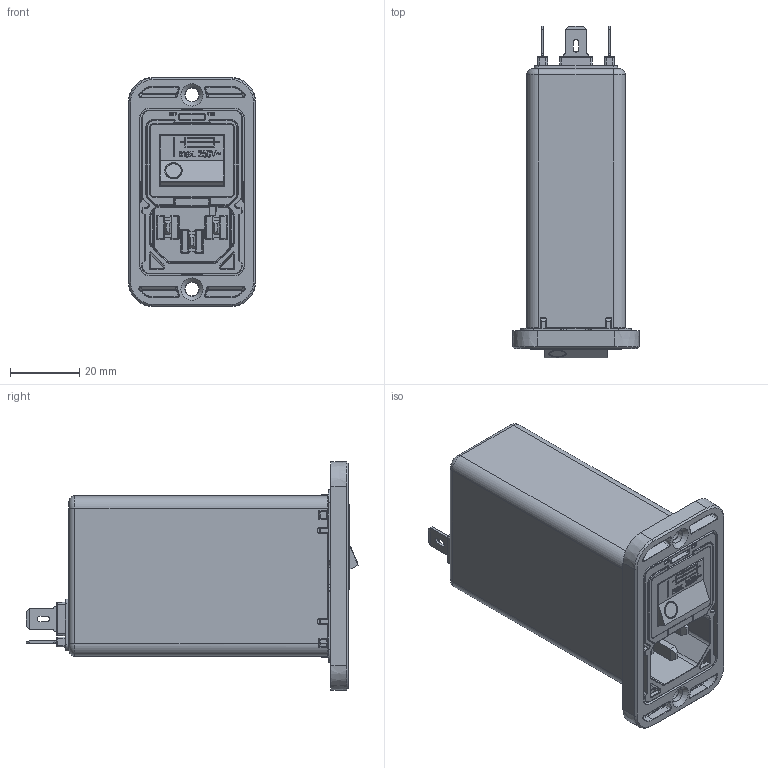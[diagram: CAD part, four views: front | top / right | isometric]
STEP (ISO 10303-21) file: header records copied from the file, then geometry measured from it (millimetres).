
FILE_DESCRIPTION((''),'2;1');
FILE_NAME('H:\02_Projects\A_Others\Z_Support\Luis\Cherry_STP\Step_Files\2 Stage\2_stage_faston_vertical_front.stp','2012-07-26T14:59:36',('Samuel.Meier'),(''),'Autodesk Inventor 2010','Autodesk Inventor 2010','');
FILE_SCHEMA(('AUTOMOTIVE_DESIGN { 1 2 10303 214 0 1 1 1 }'));
Length unit declared in the file: millimetre
Products named in the file (1): 2_stage_faston_vertical_front
Bounding box: 36.67 x 95.74 x 66.07 mm (x, y, z)
Surface area: 70881.9 mm2 (no closed solid volume)
Topology: 0 solids, 12 shells, 3664 faces, 9810 edges, 6078 vertices
Faces by surface type: plane 1449, cylinder 1389, bspline 540, torus 127, sphere 91, cone 68
Full cylindrical faces by diameter (mm): 0.8 x4, 1 x2, 1.1 x10, 1.2 x1, 2.7 x1, 3.3 x1, 3.6 x2, 4 x2, 4.5 x2, 6.5 x1, 7.2 x2, 8.2 x2
Entity records: 125891 total; most frequent: CARTESIAN_POINT 31877, ORIENTED_EDGE 19334, DIRECTION 18720, EDGE_CURVE 9667, AXIS2_PLACEMENT_3D 6584, VERTEX_POINT 6068, VECTOR 5552, LINE 5552
